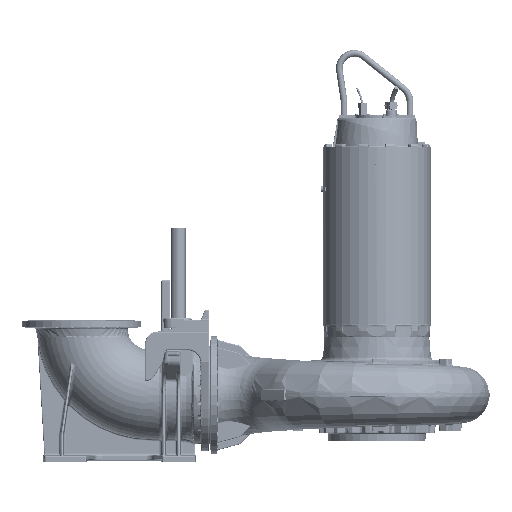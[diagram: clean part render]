
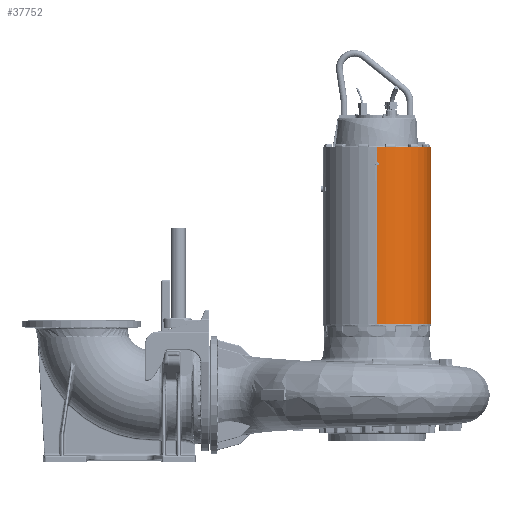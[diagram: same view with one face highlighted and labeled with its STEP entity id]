
A CAD part, top view. The second image highlights one B-rep face of the part: STEP entity #37752.
In plain terms, the highlighted cylindrical face has radius 322 mm (diameter 644 mm), a partial arc.
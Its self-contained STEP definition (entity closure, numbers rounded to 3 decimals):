
#7814 = EDGE_CURVE ( 'NONE', #121430, #247061, #53158, .T. ) ;
#8310 = LINE ( 'NONE', #56527, #155884 ) ;
#9349 = FACE_OUTER_BOUND ( 'NONE', #25063, .T. ) ;
#20892 = ORIENTED_EDGE ( 'NONE', *, *, #50118, .F. ) ;
#21141 = VECTOR ( 'NONE', #339521, 1000. ) ;
#25063 = EDGE_LOOP ( 'NONE', ( #250973, #216272, #213378, #366154, #72674, #300053, #343357, #55978, #244822, #20892, #306616, #269746 ) ) ;
#26501 = DIRECTION ( 'NONE',  ( 0., -1., 0. ) ) ;
#35110 = CARTESIAN_POINT ( 'NONE',  ( 0., 950.97, 322. ) ) ;
#37752 = ADVANCED_FACE ( 'NONE', ( #9349 ), #285896, .T. ) ;
#41104 = VERTEX_POINT ( 'NONE', #342413 ) ;
#42575 = DIRECTION ( 'NONE',  ( 0., -1., 0. ) ) ;
#43929 = VECTOR ( 'NONE', #157561, 1000. ) ;
#45593 = CARTESIAN_POINT ( 'NONE',  ( 0., 0., 0. ) ) ;
#45735 = CARTESIAN_POINT ( 'NONE',  ( 9.5, 945.485, -321.86 ) ) ;
#46554 = EDGE_CURVE ( 'NONE', #121430, #122363, #266070, .T. ) ;
#46797 = EDGE_CURVE ( 'NONE', #121463, #327616, #256386, .T. ) ;
#48011 = CARTESIAN_POINT ( 'NONE',  ( 0., -20., 0. ) ) ;
#50118 = EDGE_CURVE ( 'NONE', #345186, #308655, #59577, .T. ) ;
#53158 = CIRCLE ( 'NONE', #235232, 322. ) ;
#54580 = CIRCLE ( 'NONE', #303504, 322. ) ;
#55978 = ORIENTED_EDGE ( 'NONE', *, *, #46797, .F. ) ;
#56527 = CARTESIAN_POINT ( 'NONE',  ( 9.5, 1180.349, 321.86 ) ) ;
#57874 =( BOUNDED_CURVE ( )  B_SPLINE_CURVE ( 3, ( #369215, #162979, #222199, #45735 ),
 .UNSPECIFIED., .F., .F. ) 
 B_SPLINE_CURVE_WITH_KNOTS ( ( 4, 4 ),
 ( 1.571, 1.6 ),
 .UNSPECIFIED. ) 
 CURVE ( )  GEOMETRIC_REPRESENTATION_ITEM ( )  RATIONAL_B_SPLINE_CURVE ( ( 1., 1., 1., 1. ) ) 
 REPRESENTATION_ITEM ( '' )  );
#59577 = LINE ( 'NONE', #249636, #354738 ) ;
#61460 = CARTESIAN_POINT ( 'NONE',  ( 9.5, 934.515, 321.86 ) ) ;
#72674 = ORIENTED_EDGE ( 'NONE', *, *, #355476, .T. ) ;
#77542 = DIRECTION ( 'NONE',  ( 1., 0., 0. ) ) ;
#79798 = CARTESIAN_POINT ( 'NONE',  ( 6.334, 947.313, 321.953 ) ) ;
#83973 = EDGE_CURVE ( 'NONE', #315206, #192001, #196666, .T. ) ;
#86141 = DIRECTION ( 'NONE',  ( 0., -1., 0. ) ) ;
#90285 = CARTESIAN_POINT ( 'NONE',  ( 9.5, 945.485, -321.86 ) ) ;
#98380 = CARTESIAN_POINT ( 'NONE',  ( 0., 0., 322. ) ) ;
#102557 = AXIS2_PLACEMENT_3D ( 'NONE', #45593, #42575, #161000 ) ;
#109247 = VECTOR ( 'NONE', #191656, 1000. ) ;
#114566 = EDGE_CURVE ( 'NONE', #327616, #192001, #54580, .T. ) ;
#120871 = CARTESIAN_POINT ( 'NONE',  ( 0., 929.03, 322. ) ) ;
#121430 = VERTEX_POINT ( 'NONE', #333012 ) ;
#121463 = VERTEX_POINT ( 'NONE', #126792 ) ;
#122345 = LINE ( 'NONE', #98380, #43929 ) ;
#122363 = VERTEX_POINT ( 'NONE', #343387 ) ;
#126792 = CARTESIAN_POINT ( 'NONE',  ( 0., 929.03, -322. ) ) ;
#133931 = CARTESIAN_POINT ( 'NONE',  ( 9.5, 934.515, -321.86 ) ) ;
#137472 = EDGE_CURVE ( 'NONE', #247061, #274691, #122345, .T. ) ;
#139082 = CARTESIAN_POINT ( 'NONE',  ( 0., 950.97, 322. ) ) ;
#155884 = VECTOR ( 'NONE', #86141, 1000. ) ;
#157561 = DIRECTION ( 'NONE',  ( 0., -1., 0. ) ) ;
#160331 = CARTESIAN_POINT ( 'NONE',  ( 0., 0., -322. ) ) ;
#161000 = DIRECTION ( 'NONE',  ( 0., 0., -1. ) ) ;
#162979 = CARTESIAN_POINT ( 'NONE',  ( 3.167, 949.141, -322. ) ) ;
#163567 = CARTESIAN_POINT ( 'NONE',  ( 3.167, 930.859, -322. ) ) ;
#166834 = EDGE_CURVE ( 'NONE', #122363, #345186, #57874, .T. ) ;
#172014 = EDGE_CURVE ( 'NONE', #274691, #313250, #187494, .T. ) ;
#180704 = CARTESIAN_POINT ( 'NONE',  ( 9.5, 934.515, -321.86 ) ) ;
#186292 = CARTESIAN_POINT ( 'NONE',  ( 0., -20., 322. ) ) ;
#187494 =( BOUNDED_CURVE ( )  B_SPLINE_CURVE ( 3, ( #139082, #256431, #79798, #345437 ),
 .UNSPECIFIED., .F., .F. ) 
 B_SPLINE_CURVE_WITH_KNOTS ( ( 4, 4 ),
 ( 1.571, 1.6 ),
 .UNSPECIFIED. ) 
 CURVE ( )  GEOMETRIC_REPRESENTATION_ITEM ( )  RATIONAL_B_SPLINE_CURVE ( ( 1., 1., 1., 1. ) ) 
 REPRESENTATION_ITEM ( '' )  );
#191656 = DIRECTION ( 'NONE',  ( 0., -1., 0. ) ) ;
#192001 = VERTEX_POINT ( 'NONE', #186292 ) ;
#196666 = LINE ( 'NONE', #372682, #353596 ) ;
#200429 = CARTESIAN_POINT ( 'NONE',  ( 0., 1040., 322. ) ) ;
#202982 = CARTESIAN_POINT ( 'NONE',  ( 0., 1040., 0. ) ) ;
#213378 = ORIENTED_EDGE ( 'NONE', *, *, #172014, .T. ) ;
#216272 = ORIENTED_EDGE ( 'NONE', *, *, #137472, .T. ) ;
#222199 = CARTESIAN_POINT ( 'NONE',  ( 6.334, 947.313, -321.953 ) ) ;
#232607 = DIRECTION ( 'NONE',  ( 0., 0., -1. ) ) ;
#235232 = AXIS2_PLACEMENT_3D ( 'NONE', #202982, #26501, #232607 ) ;
#237993 = CARTESIAN_POINT ( 'NONE',  ( 6.334, 932.687, 321.953 ) ) ;
#244822 = ORIENTED_EDGE ( 'NONE', *, *, #381008, .F. ) ;
#247061 = VERTEX_POINT ( 'NONE', #200429 ) ;
#249636 = CARTESIAN_POINT ( 'NONE',  ( 9.5, 1180.349, -321.86 ) ) ;
#250973 = ORIENTED_EDGE ( 'NONE', *, *, #7814, .T. ) ;
#254197 = DIRECTION ( 'NONE',  ( 0., -1., 0. ) ) ;
#255539 = CARTESIAN_POINT ( 'NONE',  ( 0., 929.03, 322. ) ) ;
#256386 = LINE ( 'NONE', #160331, #21141 ) ;
#256431 = CARTESIAN_POINT ( 'NONE',  ( 3.167, 949.141, 322. ) ) ;
#266070 = LINE ( 'NONE', #372053, #109247 ) ;
#269746 = ORIENTED_EDGE ( 'NONE', *, *, #46554, .F. ) ;
#274691 = VERTEX_POINT ( 'NONE', #35110 ) ;
#279267 = DIRECTION ( 'NONE',  ( 0., -1., 0. ) ) ;
#285896 = CYLINDRICAL_SURFACE ( 'NONE', #102557, 322. ) ;
#297376 = CARTESIAN_POINT ( 'NONE',  ( 3.167, 930.859, 322. ) ) ;
#300053 = ORIENTED_EDGE ( 'NONE', *, *, #83973, .T. ) ;
#303504 = AXIS2_PLACEMENT_3D ( 'NONE', #48011, #254197, #77542 ) ;
#305080 =( BOUNDED_CURVE ( )  B_SPLINE_CURVE ( 3, ( #133931, #310491, #163567, #369775 ),
 .UNSPECIFIED., .F., .F. ) 
 B_SPLINE_CURVE_WITH_KNOTS ( ( 4, 4 ),
 ( 1.541, 1.571 ),
 .UNSPECIFIED. ) 
 CURVE ( )  GEOMETRIC_REPRESENTATION_ITEM ( )  RATIONAL_B_SPLINE_CURVE ( ( 1., 1., 1., 1. ) ) 
 REPRESENTATION_ITEM ( '' )  );
#306616 = ORIENTED_EDGE ( 'NONE', *, *, #166834, .F. ) ;
#308655 = VERTEX_POINT ( 'NONE', #180704 ) ;
#310491 = CARTESIAN_POINT ( 'NONE',  ( 6.334, 932.687, -321.953 ) ) ;
#313250 = VERTEX_POINT ( 'NONE', #320415 ) ;
#315206 = VERTEX_POINT ( 'NONE', #255539 ) ;
#320415 = CARTESIAN_POINT ( 'NONE',  ( 9.5, 945.485, 321.86 ) ) ;
#327616 = VERTEX_POINT ( 'NONE', #376625 ) ;
#333012 = CARTESIAN_POINT ( 'NONE',  ( 0., 1040., -322. ) ) ;
#339521 = DIRECTION ( 'NONE',  ( 0., -1., 0. ) ) ;
#342413 = CARTESIAN_POINT ( 'NONE',  ( 9.5, 934.515, 321.86 ) ) ;
#343357 = ORIENTED_EDGE ( 'NONE', *, *, #114566, .F. ) ;
#343387 = CARTESIAN_POINT ( 'NONE',  ( 0., 950.97, -322. ) ) ;
#345186 = VERTEX_POINT ( 'NONE', #90285 ) ;
#345437 = CARTESIAN_POINT ( 'NONE',  ( 9.5, 945.485, 321.86 ) ) ;
#353596 = VECTOR ( 'NONE', #373988, 1000. ) ;
#354738 = VECTOR ( 'NONE', #279267, 1000. ) ;
#355476 = EDGE_CURVE ( 'NONE', #41104, #315206, #361926, .T. ) ;
#361926 =( BOUNDED_CURVE ( )  B_SPLINE_CURVE ( 3, ( #61460, #237993, #297376, #120871 ),
 .UNSPECIFIED., .F., .F. ) 
 B_SPLINE_CURVE_WITH_KNOTS ( ( 4, 4 ),
 ( 1.541, 1.571 ),
 .UNSPECIFIED. ) 
 CURVE ( )  GEOMETRIC_REPRESENTATION_ITEM ( )  RATIONAL_B_SPLINE_CURVE ( ( 1., 1., 1., 1. ) ) 
 REPRESENTATION_ITEM ( '' )  );
#366154 = ORIENTED_EDGE ( 'NONE', *, *, #382705, .T. ) ;
#369215 = CARTESIAN_POINT ( 'NONE',  ( 0., 950.97, -322. ) ) ;
#369775 = CARTESIAN_POINT ( 'NONE',  ( 0., 929.03, -322. ) ) ;
#372053 = CARTESIAN_POINT ( 'NONE',  ( 0., 0., -322. ) ) ;
#372682 = CARTESIAN_POINT ( 'NONE',  ( 0., 0., 322. ) ) ;
#373988 = DIRECTION ( 'NONE',  ( 0., -1., 0. ) ) ;
#376625 = CARTESIAN_POINT ( 'NONE',  ( 0., -20., -322. ) ) ;
#381008 = EDGE_CURVE ( 'NONE', #308655, #121463, #305080, .T. ) ;
#382705 = EDGE_CURVE ( 'NONE', #313250, #41104, #8310, .T. ) ;
